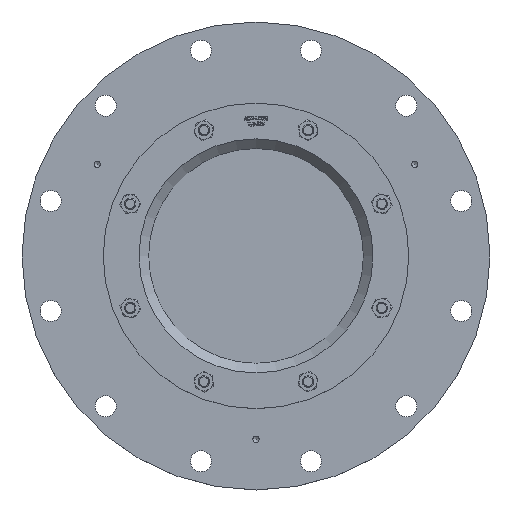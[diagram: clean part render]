
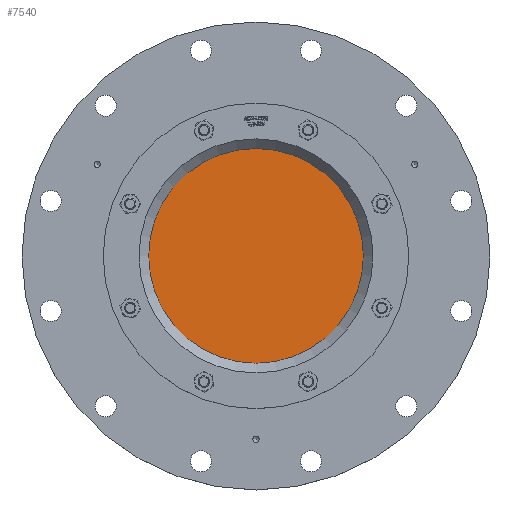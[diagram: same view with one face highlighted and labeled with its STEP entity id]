
A CAD part, top view. The second image highlights one B-rep face of the part: STEP entity #7540.
In plain terms, the highlighted planar face has unit normal (0, 0, 1).
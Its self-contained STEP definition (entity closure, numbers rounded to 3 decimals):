
#1775=FACE_OUTER_BOUND('',#2236,.T.);
#2236=EDGE_LOOP('',(#4762));
#2809=CIRCLE('',#8005,112.5);
#2983=VERTEX_POINT('',#10055);
#3691=EDGE_CURVE('',#2983,#2983,#2809,.T.);
#4762=ORIENTED_EDGE('',*,*,#3691,.F.);
#6892=PLANE('',#8004);
#7540=ADVANCED_FACE('',(#1775),#6892,.F.);
#8004=AXIS2_PLACEMENT_3D('',#10054,#8535,#8536);
#8005=AXIS2_PLACEMENT_3D('',#10056,#8537,#8538);
#8535=DIRECTION('center_axis',(0.,0.,-1.));
#8536=DIRECTION('ref_axis',(-1.,0.,0.));
#8537=DIRECTION('center_axis',(0.,0.,-1.));
#8538=DIRECTION('ref_axis',(-1.,0.,0.));
#10054=CARTESIAN_POINT('Origin',(0.,0.,63.));
#10055=CARTESIAN_POINT('',(112.5,0.,63.));
#10056=CARTESIAN_POINT('Origin',(0.,0.,63.));
